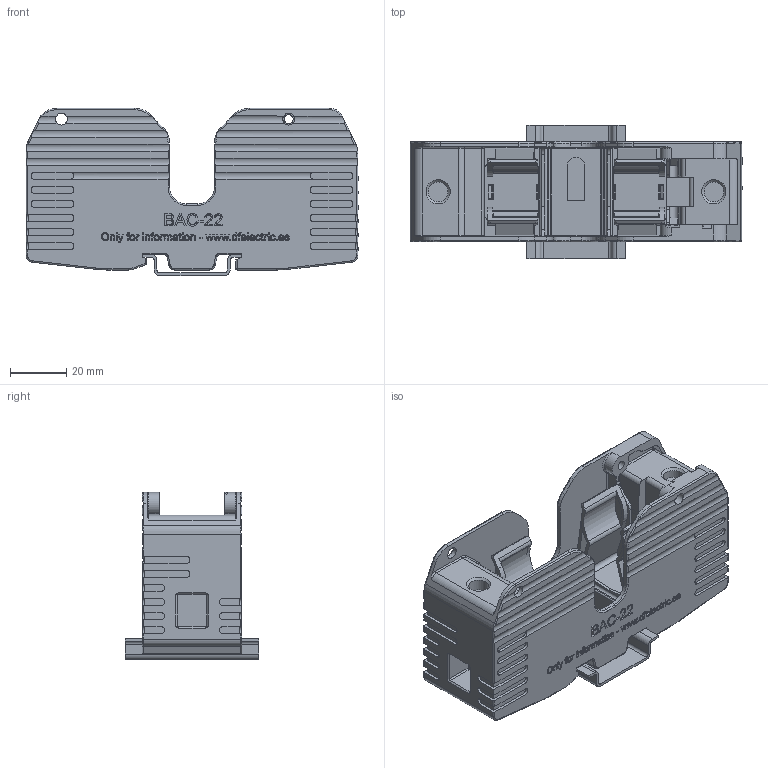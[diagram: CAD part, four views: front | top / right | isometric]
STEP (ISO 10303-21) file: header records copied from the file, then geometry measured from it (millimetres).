
FILE_DESCRIPTION(/* description */ (''),/* implementation_level */ '2;1');
FILE_NAME(/* name */ 'REP_BAC-22_INFO_3D_COMERCIAL.stp',/* time_stamp */ '2020-06-12T12:13:20+02:00',/* author */ (''),/* organization */ (''),/* preprocessor_version */ 'ST-DEVELOPER v16',/* originating_system */ 'SIEMENS PLM Software NX 11.0',/* authorisation */ '');
FILE_SCHEMA (('AUTOMOTIVE_DESIGN { 1 0 10303 214 3 1 1 1 }'));
Length unit declared in the file: millimetre
Products named in the file (1): REP_BAC-22_INFO_3D_COMERCIAL
Bounding box: 118 x 47.5 x 59.46 mm (x, y, z)
Volume: 118566.4 mm3; surface area: 55014.6 mm2
Topology: 4 solids, 4 shells, 1470 faces, 3837 edges, 2401 vertices
Faces by surface type: plane 693, cylinder 477, extrusion 135, torus 80, sphere 42, bspline 33, cone 10
Full cylindrical faces by diameter (mm): 3.2 x1, 4.2 x3, 7 x2
Entity records: 49452 total; most frequent: CARTESIAN_POINT 14101, ORIENTED_EDGE 7570, DIRECTION 6958, EDGE_CURVE 3785, VERTEX_POINT 2397, AXIS2_PLACEMENT_3D 2325, VECTOR 2308, LINE 2173
